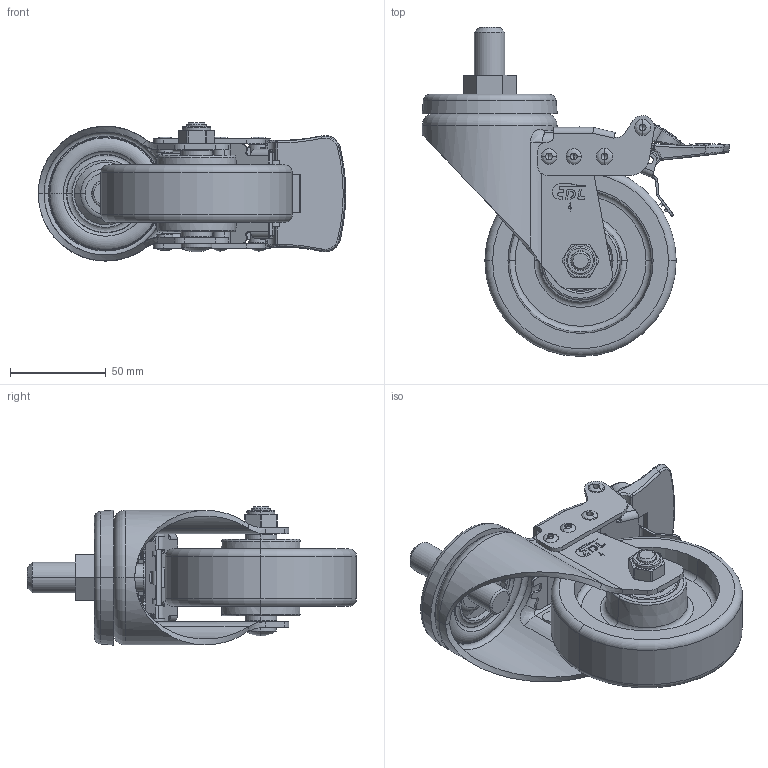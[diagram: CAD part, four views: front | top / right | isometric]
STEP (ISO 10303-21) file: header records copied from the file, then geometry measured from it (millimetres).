
FILE_DESCRIPTION((''),'2;1');
FILE_NAME('66144HM16X25_ASM_1_ASM','2024-04-28T',('Lenovo'),(''),'PRO/ENGINEER BY PARAMETRIC TECHNOLOGY CORPORATION, 2010280','PRO/ENGINEER BY PARAMETRIC TECHNOLOGY CORPORATION, 2010280','');
FILE_SCHEMA(('CONFIG_CONTROL_DESIGN'));
Length unit declared in the file: millimetre
Products named in the file (38): 6610-053M16X25_2; 6610-251_1; 6614-311_2; 674-986AA_3; MANIFOLD_SOLID_BREP_13504; MANIFOLD_SOLID_BREP_13872; MANIFOLD_SOLID_BREP_13910; MANIFOLD_SOLID_BREP_13948; MANIFOLD_SOLID_BREP_13986; MANIFOLD_SOLID_BREP_14024; MANIFOLD_SOLID_BREP_14062; MANIFOLD_SOLID_BREP_14100; MANIFOLD_SOLID_BREP_14138; MANIFOLD_SOLID_BREP_14176; MANIFOLD_SOLID_BREP_14214; MANIFOLD_SOLID_BREP_14252; MANIFOLD_SOLID_BREP_14290; MANIFOLD_SOLID_BREP_14328; MANIFOLD_SOLID_BREP_14366; 6201_1_ASM; 500-66_3; 630-54A_1; 674-86A_ASM_1_ASM; 630-33A_3; 630-34_4; 670-17_3; MANIFOLD_SOLID_BREP_25276; MANIFOLD_SOLID_BREP_25374; MANIFOLD_SOLID_BREP_25472; 670-64_1_ASM; MANIFOLD_SOLID_BREP_33300; MANIFOLD_SOLID_BREP_33646; MANIFOLD_SOLID_BREP_33896; 670-13_7_ASM; 671-64_5; 671-32_4; 670-32_3; 66144HM16X25_ASM_1_ASM
Assembly tree (43 placements, depth 4):
  66144HM16X25_ASM_1_ASM
    6610-053M16X25_2
    6610-251_1
    6614-311_2
    674-86A_ASM_1_ASM
      674-986AA_3
      6201_1_ASM  x2
        MANIFOLD_SOLID_BREP_13504
        MANIFOLD_SOLID_BREP_13872
        MANIFOLD_SOLID_BREP_13910
        MANIFOLD_SOLID_BREP_13948
        MANIFOLD_SOLID_BREP_13986
        MANIFOLD_SOLID_BREP_14024
        MANIFOLD_SOLID_BREP_14062
        MANIFOLD_SOLID_BREP_14100
        MANIFOLD_SOLID_BREP_14138
        MANIFOLD_SOLID_BREP_14176
        MANIFOLD_SOLID_BREP_14214
        MANIFOLD_SOLID_BREP_14252
        MANIFOLD_SOLID_BREP_14290
        MANIFOLD_SOLID_BREP_14328
        MANIFOLD_SOLID_BREP_14366
      500-66_3  x2
      630-54A_1
    630-33A_3
    630-34_4
    670-17_3
    670-64_1_ASM
      MANIFOLD_SOLID_BREP_25276
      MANIFOLD_SOLID_BREP_25374
      MANIFOLD_SOLID_BREP_25472
    670-13_7_ASM
      MANIFOLD_SOLID_BREP_33300
      MANIFOLD_SOLID_BREP_33646
      MANIFOLD_SOLID_BREP_33896
    671-64_5
    671-32_4  x4
    670-32_3  x2
Bounding box: 160.81 x 172 x 72.29 mm (x, y, z)
Volume: 282391.5 mm3; surface area: 135085.1 mm2
Topology: 53 solids, 53 shells, 1211 faces, 3126 edges, 1924 vertices
Faces by surface type: plane 503, cylinder 328, bspline 129, torus 101, sphere 90, cone 60
Entity records: 39038 total; most frequent: CARTESIAN_POINT 12595, ORIENTED_EDGE 5448, DIRECTION 5332, EDGE_CURVE 2724, AXIS2_PLACEMENT_3D 2008, VERTEX_POINT 1730, VECTOR 1316, LINE 1316
